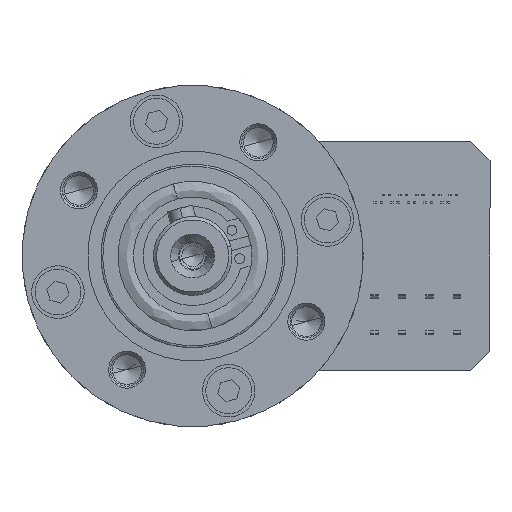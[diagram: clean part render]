
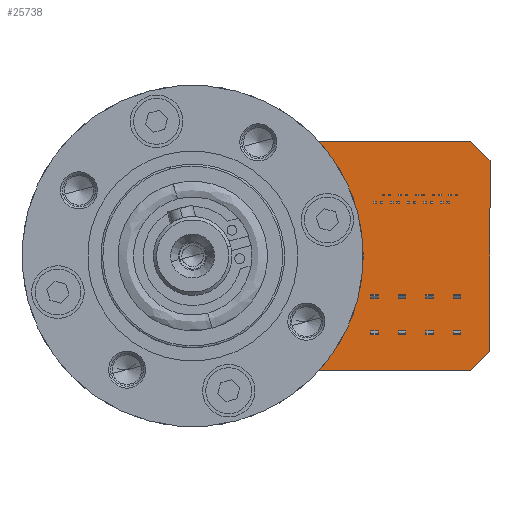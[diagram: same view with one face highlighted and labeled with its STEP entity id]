
A CAD part, left-side view. The second image highlights one B-rep face of the part: STEP entity #25738.
In plain terms, the highlighted planar face has unit normal (-1, 0, 0).
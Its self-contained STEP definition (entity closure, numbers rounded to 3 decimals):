
#2087 = DIRECTION ( 'NONE',  ( 1., 0., 0. ) ) ;
#2456 = DIRECTION ( 'NONE',  ( 0., 0.707, -0.707 ) ) ;
#3360 = ORIENTED_EDGE ( 'NONE', *, *, #8600, .F. ) ;
#4707 = CIRCLE ( 'NONE', #33532, 22. ) ;
#7567 = CARTESIAN_POINT ( 'NONE',  ( 4., 0., 0. ) ) ;
#7822 = VECTOR ( 'NONE', #11799, 1000. ) ;
#8175 = ORIENTED_EDGE ( 'NONE', *, *, #15854, .F. ) ;
#8600 = EDGE_CURVE ( 'NONE', #19338, #10943, #18702, .T. ) ;
#9060 = CARTESIAN_POINT ( 'NONE',  ( 4., -11.426, 17.5 ) ) ;
#10350 = PLANE ( 'NONE',  #29479 ) ;
#10412 = LINE ( 'NONE', #30845, #7822 ) ;
#10943 = VERTEX_POINT ( 'NONE', #27303 ) ;
#11439 = CARTESIAN_POINT ( 'NONE',  ( 4., -42.3, 17.5 ) ) ;
#11470 = VECTOR ( 'NONE', #2456, 1000. ) ;
#11799 = DIRECTION ( 'NONE',  ( 0., 1., 0. ) ) ;
#11819 = ORIENTED_EDGE ( 'NONE', *, *, #13361, .F. ) ;
#11914 = EDGE_CURVE ( 'NONE', #14200, #23598, #12554, .T. ) ;
#12073 = DIRECTION ( 'NONE',  ( -1., 0., 0. ) ) ;
#12554 = LINE ( 'NONE', #26062, #18910 ) ;
#13125 = DIRECTION ( 'NONE',  ( 0., 0., -1. ) ) ;
#13361 = EDGE_CURVE ( 'NONE', #15398, #24110, #4707, .T. ) ;
#14200 = VERTEX_POINT ( 'NONE', #11439 ) ;
#15398 = VERTEX_POINT ( 'NONE', #33839 ) ;
#15854 = EDGE_CURVE ( 'NONE', #24110, #14200, #17373, .T. ) ;
#17076 = ORIENTED_EDGE ( 'NONE', *, *, #32268, .F. ) ;
#17373 = LINE ( 'NONE', #9060, #25436 ) ;
#18702 = LINE ( 'NONE', #32381, #11470 ) ;
#18910 = VECTOR ( 'NONE', #23336, 1000. ) ;
#19300 = VECTOR ( 'NONE', #24270, 1000. ) ;
#19338 = VERTEX_POINT ( 'NONE', #19996 ) ;
#19558 = CARTESIAN_POINT ( 'NONE',  ( 4., -13.332, 17.5 ) ) ;
#19996 = CARTESIAN_POINT ( 'NONE',  ( 4., -45.3, -14.5 ) ) ;
#20160 = LINE ( 'NONE', #21058, #19300 ) ;
#21058 = CARTESIAN_POINT ( 'NONE',  ( 4., -45.3, 14.5 ) ) ;
#21499 = ORIENTED_EDGE ( 'NONE', *, *, #11914, .F. ) ;
#22817 = CARTESIAN_POINT ( 'NONE',  ( 4., -45.3, 14.5 ) ) ;
#23336 = DIRECTION ( 'NONE',  ( 0., -0.707, -0.707 ) ) ;
#23598 = VERTEX_POINT ( 'NONE', #22817 ) ;
#24110 = VERTEX_POINT ( 'NONE', #19558 ) ;
#24270 = DIRECTION ( 'NONE',  ( 0., 0., -1. ) ) ;
#25436 = VECTOR ( 'NONE', #28073, 1000. ) ;
#25738 = ADVANCED_FACE ( 'NONE', ( #30408 ), #10350, .F. ) ;
#26062 = CARTESIAN_POINT ( 'NONE',  ( 4., -42.3, 17.5 ) ) ;
#27303 = CARTESIAN_POINT ( 'NONE',  ( 4., -42.3, -17.5 ) ) ;
#28073 = DIRECTION ( 'NONE',  ( 0., -1., 0. ) ) ;
#28317 = CARTESIAN_POINT ( 'NONE',  ( 4., 0., 0. ) ) ;
#29279 = EDGE_LOOP ( 'NONE', ( #8175, #11819, #17076, #3360, #33021, #21499 ) ) ;
#29479 = AXIS2_PLACEMENT_3D ( 'NONE', #7567, #2087, #13125 ) ;
#30408 = FACE_OUTER_BOUND ( 'NONE', #29279, .T. ) ;
#30845 = CARTESIAN_POINT ( 'NONE',  ( 4., -11.426, -17.5 ) ) ;
#31080 = DIRECTION ( 'NONE',  ( 0., 0., 1. ) ) ;
#32268 = EDGE_CURVE ( 'NONE', #10943, #15398, #10412, .T. ) ;
#32381 = CARTESIAN_POINT ( 'NONE',  ( 4., -42.3, -17.5 ) ) ;
#33021 = ORIENTED_EDGE ( 'NONE', *, *, #33045, .F. ) ;
#33045 = EDGE_CURVE ( 'NONE', #23598, #19338, #20160, .T. ) ;
#33532 = AXIS2_PLACEMENT_3D ( 'NONE', #28317, #12073, #31080 ) ;
#33839 = CARTESIAN_POINT ( 'NONE',  ( 4., -13.332, -17.5 ) ) ;
